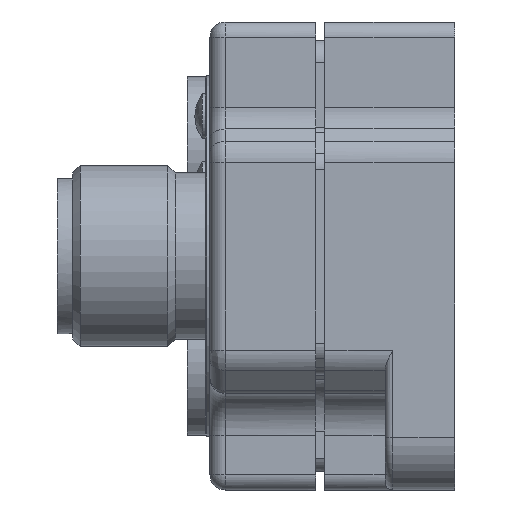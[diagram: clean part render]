
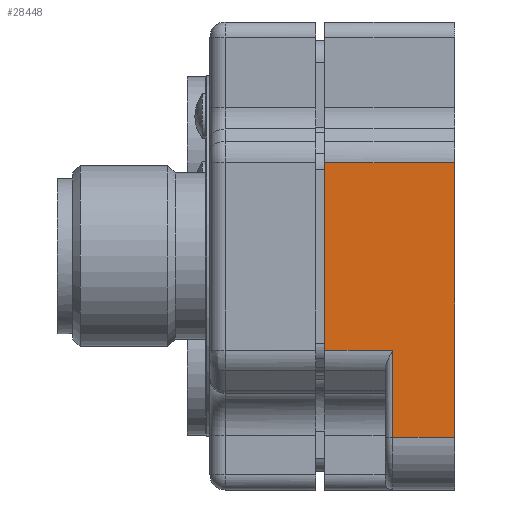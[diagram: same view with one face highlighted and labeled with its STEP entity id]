
A CAD part, left-side view. The second image highlights one B-rep face of the part: STEP entity #28448.
In plain terms, the highlighted planar face has unit normal (-1, 0, 0).
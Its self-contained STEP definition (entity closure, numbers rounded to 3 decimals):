
#2096 = ORIENTED_EDGE ( 'NONE', *, *, #26093, .T. ) ;
#2286 = PLANE ( 'NONE',  #14688 ) ;
#2432 = LINE ( 'NONE', #17682, #8728 ) ;
#4693 = CARTESIAN_POINT ( 'NONE',  ( -0.6, 0., -30.4 ) ) ;
#4953 = EDGE_LOOP ( 'NONE', ( #30211, #18963, #5939, #11598, #2096, #13220 ) ) ;
#5888 = DIRECTION ( 'NONE',  ( 0., 1., 0. ) ) ;
#5939 = ORIENTED_EDGE ( 'NONE', *, *, #7884, .T. ) ;
#6031 = CARTESIAN_POINT ( 'NONE',  ( -0.6, 4.3, -27.2 ) ) ;
#7000 = CARTESIAN_POINT ( 'NONE',  ( -0.6, 0., -21.43 ) ) ;
#7021 = DIRECTION ( 'NONE',  ( 0., 0., 1. ) ) ;
#7079 = DIRECTION ( 'NONE',  ( -1., 0., 0. ) ) ;
#7504 = CARTESIAN_POINT ( 'NONE',  ( -0.6, 8.8, -30.4 ) ) ;
#7884 = EDGE_CURVE ( 'NONE', #27541, #15248, #29451, .T. ) ;
#8252 = CARTESIAN_POINT ( 'NONE',  ( -0.6, 0., -9.028 ) ) ;
#8728 = VECTOR ( 'NONE', #20184, 1000. ) ;
#8980 = VECTOR ( 'NONE', #25909, 1000. ) ;
#9276 = CARTESIAN_POINT ( 'NONE',  ( -0.6, 4.3, -30.4 ) ) ;
#9350 = CARTESIAN_POINT ( 'NONE',  ( -0.6, 0.2, -3.324 ) ) ;
#11598 = ORIENTED_EDGE ( 'NONE', *, *, #22821, .T. ) ;
#13073 = CARTESIAN_POINT ( 'NONE',  ( -0.6, 8.8, -9.028 ) ) ;
#13220 = ORIENTED_EDGE ( 'NONE', *, *, #16539, .T. ) ;
#13404 = VECTOR ( 'NONE', #28894, 1000. ) ;
#13846 = CARTESIAN_POINT ( 'NONE',  ( -0.6, 0.2, -27.2 ) ) ;
#13930 = VERTEX_POINT ( 'NONE', #19209 ) ;
#14140 = LINE ( 'NONE', #7504, #13404 ) ;
#14184 = VERTEX_POINT ( 'NONE', #6031 ) ;
#14688 = AXIS2_PLACEMENT_3D ( 'NONE', #4693, #7079, #23693 ) ;
#14811 = EDGE_CURVE ( 'NONE', #13930, #23124, #23703, .T. ) ;
#15248 = VERTEX_POINT ( 'NONE', #21830 ) ;
#15283 = LINE ( 'NONE', #9276, #8980 ) ;
#16539 = EDGE_CURVE ( 'NONE', #20782, #13930, #28017, .T. ) ;
#17682 = CARTESIAN_POINT ( 'NONE',  ( -0.6, 0., -27.2 ) ) ;
#18099 = VECTOR ( 'NONE', #5888, 1000. ) ;
#18963 = ORIENTED_EDGE ( 'NONE', *, *, #23185, .T. ) ;
#19209 = CARTESIAN_POINT ( 'NONE',  ( -0.6, 0.2, -9.028 ) ) ;
#20184 = DIRECTION ( 'NONE',  ( 0., -1., 0. ) ) ;
#20782 = VERTEX_POINT ( 'NONE', #13846 ) ;
#21830 = CARTESIAN_POINT ( 'NONE',  ( -0.6, 4.3, -21.43 ) ) ;
#22821 = EDGE_CURVE ( 'NONE', #15248, #14184, #15283, .T. ) ;
#23124 = VERTEX_POINT ( 'NONE', #13073 ) ;
#23185 = EDGE_CURVE ( 'NONE', #23124, #27541, #14140, .T. ) ;
#23278 = VECTOR ( 'NONE', #23618, 1000. ) ;
#23618 = DIRECTION ( 'NONE',  ( 0., -1., 0. ) ) ;
#23693 = DIRECTION ( 'NONE',  ( 0., 0., 1. ) ) ;
#23703 = LINE ( 'NONE', #8252, #18099 ) ;
#25909 = DIRECTION ( 'NONE',  ( 0., 0., -1. ) ) ;
#26093 = EDGE_CURVE ( 'NONE', #14184, #20782, #2432, .T. ) ;
#26133 = FACE_OUTER_BOUND ( 'NONE', #4953, .T. ) ;
#26566 = VECTOR ( 'NONE', #7021, 1000. ) ;
#27541 = VERTEX_POINT ( 'NONE', #28327 ) ;
#28017 = LINE ( 'NONE', #9350, #26566 ) ;
#28327 = CARTESIAN_POINT ( 'NONE',  ( -0.6, 8.8, -21.43 ) ) ;
#28448 = ADVANCED_FACE ( 'NONE', ( #26133 ), #2286, .T. ) ;
#28894 = DIRECTION ( 'NONE',  ( 0., 0., -1. ) ) ;
#29451 = LINE ( 'NONE', #7000, #23278 ) ;
#30211 = ORIENTED_EDGE ( 'NONE', *, *, #14811, .T. ) ;
